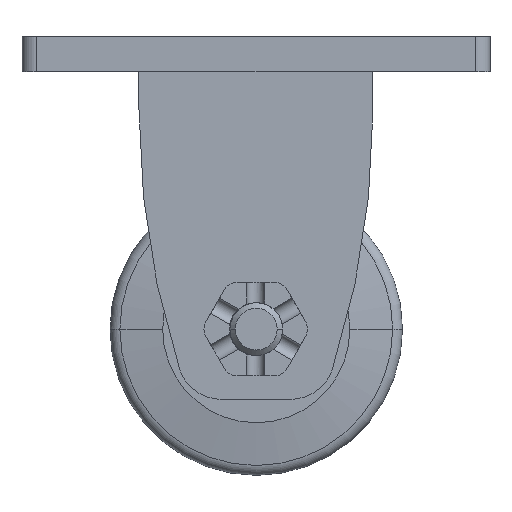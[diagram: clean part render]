
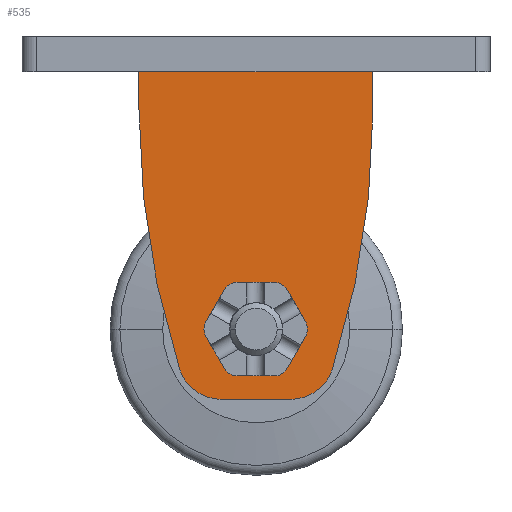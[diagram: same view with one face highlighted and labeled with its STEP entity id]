
A CAD part, front view. The second image highlights one B-rep face of the part: STEP entity #535.
In plain terms, the highlighted planar face has unit normal (0, -1, 0).
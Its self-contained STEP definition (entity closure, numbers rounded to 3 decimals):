
#535=ADVANCED_FACE('',(#1382,#1383),#865,.F.);
#865=PLANE('',#6846);
#1382=FACE_BOUND('',#1473,.T.);
#1383=FACE_BOUND('',#1474,.T.);
#1473=EDGE_LOOP('',(#3092,#3093,#3094,#3095,#3096,#3097,#3098,#3099));
#1474=EDGE_LOOP('',(#3100,#3101,#3102,#3103,#3104,#3105,#3106,#3107,#3108,
#3109,#3110,#3111));
#1858=LINE('',#9877,#2339);
#1859=LINE('',#9883,#2340);
#1860=LINE('',#9885,#2341);
#1861=LINE('',#9887,#2342);
#1862=LINE('',#9890,#2343);
#1863=LINE('',#9895,#2344);
#1864=LINE('',#9899,#2345);
#1865=LINE('',#9903,#2346);
#1866=LINE('',#9907,#2347);
#1867=LINE('',#9911,#2348);
#2339=VECTOR('',#7638,1.);
#2340=VECTOR('',#7643,1.);
#2341=VECTOR('',#7644,1.);
#2342=VECTOR('',#7645,1.);
#2343=VECTOR('',#7648,1.);
#2344=VECTOR('',#7651,1.);
#2345=VECTOR('',#7654,1.);
#2346=VECTOR('',#7657,1.);
#2347=VECTOR('',#7660,1.);
#2348=VECTOR('',#7663,1.);
#3092=ORIENTED_EDGE('',*,*,#5686,.F.);
#3093=ORIENTED_EDGE('',*,*,#5687,.T.);
#3094=ORIENTED_EDGE('',*,*,#5688,.F.);
#3095=ORIENTED_EDGE('',*,*,#5689,.F.);
#3096=ORIENTED_EDGE('',*,*,#5690,.T.);
#3097=ORIENTED_EDGE('',*,*,#5691,.T.);
#3098=ORIENTED_EDGE('',*,*,#5692,.T.);
#3099=ORIENTED_EDGE('',*,*,#5693,.F.);
#3100=ORIENTED_EDGE('',*,*,#5694,.F.);
#3101=ORIENTED_EDGE('',*,*,#5695,.F.);
#3102=ORIENTED_EDGE('',*,*,#5696,.F.);
#3103=ORIENTED_EDGE('',*,*,#5697,.F.);
#3104=ORIENTED_EDGE('',*,*,#5698,.F.);
#3105=ORIENTED_EDGE('',*,*,#5699,.F.);
#3106=ORIENTED_EDGE('',*,*,#5700,.F.);
#3107=ORIENTED_EDGE('',*,*,#5701,.F.);
#3108=ORIENTED_EDGE('',*,*,#5702,.F.);
#3109=ORIENTED_EDGE('',*,*,#5703,.F.);
#3110=ORIENTED_EDGE('',*,*,#5704,.F.);
#3111=ORIENTED_EDGE('',*,*,#5705,.F.);
#4988=VERTEX_POINT('',#9875);
#4989=VERTEX_POINT('',#9876);
#4990=VERTEX_POINT('',#9878);
#4991=VERTEX_POINT('',#9880);
#4992=VERTEX_POINT('',#9882);
#4993=VERTEX_POINT('',#9884);
#4994=VERTEX_POINT('',#9886);
#4995=VERTEX_POINT('',#9888);
#4996=VERTEX_POINT('',#9891);
#4997=VERTEX_POINT('',#9892);
#4998=VERTEX_POINT('',#9894);
#4999=VERTEX_POINT('',#9896);
#5000=VERTEX_POINT('',#9898);
#5001=VERTEX_POINT('',#9900);
#5002=VERTEX_POINT('',#9902);
#5003=VERTEX_POINT('',#9904);
#5004=VERTEX_POINT('',#9906);
#5005=VERTEX_POINT('',#9908);
#5006=VERTEX_POINT('',#9910);
#5007=VERTEX_POINT('',#9912);
#5686=EDGE_CURVE('',#4988,#4989,#6535,.T.);
#5687=EDGE_CURVE('',#4988,#4990,#1858,.T.);
#5688=EDGE_CURVE('',#4991,#4990,#6536,.T.);
#5689=EDGE_CURVE('',#4992,#4991,#6537,.T.);
#5690=EDGE_CURVE('',#4992,#4993,#1859,.T.);
#5691=EDGE_CURVE('',#4993,#4994,#1860,.T.);
#5692=EDGE_CURVE('',#4994,#4995,#1861,.T.);
#5693=EDGE_CURVE('',#4989,#4995,#6538,.T.);
#5694=EDGE_CURVE('',#4996,#4997,#1862,.T.);
#5695=EDGE_CURVE('',#4998,#4996,#6539,.T.);
#5696=EDGE_CURVE('',#4999,#4998,#1863,.T.);
#5697=EDGE_CURVE('',#5000,#4999,#6540,.T.);
#5698=EDGE_CURVE('',#5001,#5000,#1864,.T.);
#5699=EDGE_CURVE('',#5002,#5001,#6541,.T.);
#5700=EDGE_CURVE('',#5003,#5002,#1865,.T.);
#5701=EDGE_CURVE('',#5004,#5003,#6542,.T.);
#5702=EDGE_CURVE('',#5005,#5004,#1866,.T.);
#5703=EDGE_CURVE('',#5006,#5005,#6543,.T.);
#5704=EDGE_CURVE('',#5007,#5006,#1867,.T.);
#5705=EDGE_CURVE('',#4997,#5007,#6544,.T.);
#6535=CIRCLE('',#6836,15.);
#6536=CIRCLE('',#6837,15.);
#6537=CIRCLE('',#6838,290.);
#6538=CIRCLE('',#6839,290.);
#6539=CIRCLE('',#6840,5.);
#6540=CIRCLE('',#6841,5.);
#6541=CIRCLE('',#6842,5.);
#6542=CIRCLE('',#6843,5.);
#6543=CIRCLE('',#6844,5.);
#6544=CIRCLE('',#6845,5.);
#6836=AXIS2_PLACEMENT_3D('',#9874,#7636,#7637);
#6837=AXIS2_PLACEMENT_3D('',#9879,#7639,#7640);
#6838=AXIS2_PLACEMENT_3D('',#9881,#7641,#7642);
#6839=AXIS2_PLACEMENT_3D('',#9889,#7646,#7647);
#6840=AXIS2_PLACEMENT_3D('',#9893,#7649,#7650);
#6841=AXIS2_PLACEMENT_3D('',#9897,#7652,#7653);
#6842=AXIS2_PLACEMENT_3D('',#9901,#7655,#7656);
#6843=AXIS2_PLACEMENT_3D('',#9905,#7658,#7659);
#6844=AXIS2_PLACEMENT_3D('',#9909,#7661,#7662);
#6845=AXIS2_PLACEMENT_3D('',#9913,#7664,#7665);
#6846=AXIS2_PLACEMENT_3D('',#9914,#7666,#7667);
#7636=DIRECTION('',(0.,1.,0.));
#7637=DIRECTION('',(0.,0.,-1.));
#7638=DIRECTION('',(1.,0.,0.));
#7639=DIRECTION('',(0.,1.,0.));
#7640=DIRECTION('',(0.952,0.,-0.305));
#7641=DIRECTION('',(0.,1.,0.));
#7642=DIRECTION('',(1.,0.,0.));
#7643=DIRECTION('',(0.,0.,1.));
#7644=DIRECTION('',(-1.,0.,0.));
#7645=DIRECTION('',(0.,0.,-1.));
#7646=DIRECTION('',(0.,1.,0.));
#7647=DIRECTION('',(-0.952,0.,-0.305));
#7648=DIRECTION('',(-0.5,0.,0.866));
#7649=DIRECTION('',(0.,-1.,0.));
#7650=DIRECTION('',(0.866,0.,-0.5));
#7651=DIRECTION('',(0.5,0.,0.866));
#7652=DIRECTION('',(0.,-1.,0.));
#7653=DIRECTION('',(0.,0.,-1.));
#7654=DIRECTION('',(1.,0.,0.));
#7655=DIRECTION('',(0.,-1.,0.));
#7656=DIRECTION('',(-0.866,0.,-0.5));
#7657=DIRECTION('',(0.5,0.,-0.866));
#7658=DIRECTION('',(0.,-1.,0.));
#7659=DIRECTION('',(-0.866,0.,0.5));
#7660=DIRECTION('',(-0.5,0.,-0.866));
#7661=DIRECTION('',(0.,-1.,0.));
#7662=DIRECTION('',(0.,0.,1.));
#7663=DIRECTION('',(-1.,0.,0.));
#7664=DIRECTION('',(0.,-1.,0.));
#7665=DIRECTION('',(0.866,0.,0.5));
#7666=DIRECTION('',(0.,1.,0.));
#7667=DIRECTION('',(-1.,0.,0.));
#9874=CARTESIAN_POINT('',(-11.875,-51.5,-34.));
#9875=CARTESIAN_POINT('',(-11.875,-51.5,-49.));
#9876=CARTESIAN_POINT('',(-26.159,-51.5,-38.579));
#9877=CARTESIAN_POINT('',(-11.875,-51.5,-49.));
#9878=CARTESIAN_POINT('',(11.875,-51.5,-49.));
#9879=CARTESIAN_POINT('',(11.875,-51.5,-34.));
#9880=CARTESIAN_POINT('',(26.159,-51.5,-38.579));
#9881=CARTESIAN_POINT('',(-250.,-51.5,49.943));
#9882=CARTESIAN_POINT('',(40.,-51.5,49.943));
#9883=CARTESIAN_POINT('',(40.,-51.5,49.943));
#9884=CARTESIAN_POINT('',(40.,-51.5,63.));
#9885=CARTESIAN_POINT('',(40.,-51.5,63.));
#9886=CARTESIAN_POINT('',(-40.,-51.5,63.));
#9887=CARTESIAN_POINT('',(-40.,-51.5,63.));
#9888=CARTESIAN_POINT('',(-40.,-51.5,49.943));
#9889=CARTESIAN_POINT('',(250.,-51.5,49.943));
#9890=CARTESIAN_POINT('',(16.942,-51.5,-22.5));
#9891=CARTESIAN_POINT('',(16.942,-51.5,-22.5));
#9892=CARTESIAN_POINT('',(10.591,-51.5,-11.5));
#9893=CARTESIAN_POINT('',(12.612,-51.5,-25.));
#9894=CARTESIAN_POINT('',(16.942,-51.5,-27.5));
#9895=CARTESIAN_POINT('',(10.591,-51.5,-38.5));
#9896=CARTESIAN_POINT('',(10.591,-51.5,-38.5));
#9897=CARTESIAN_POINT('',(6.261,-51.5,-36.));
#9898=CARTESIAN_POINT('',(6.261,-51.5,-41.));
#9899=CARTESIAN_POINT('',(-6.441,-51.5,-41.));
#9900=CARTESIAN_POINT('',(-6.441,-51.5,-41.));
#9901=CARTESIAN_POINT('',(-6.441,-51.5,-36.));
#9902=CARTESIAN_POINT('',(-10.771,-51.5,-38.5));
#9903=CARTESIAN_POINT('',(-17.122,-51.5,-27.5));
#9904=CARTESIAN_POINT('',(-17.122,-51.5,-27.5));
#9905=CARTESIAN_POINT('',(-12.792,-51.5,-25.));
#9906=CARTESIAN_POINT('',(-17.122,-51.5,-22.5));
#9907=CARTESIAN_POINT('',(-10.771,-51.5,-11.5));
#9908=CARTESIAN_POINT('',(-10.771,-51.5,-11.5));
#9909=CARTESIAN_POINT('',(-6.441,-51.5,-14.));
#9910=CARTESIAN_POINT('',(-6.441,-51.5,-9.));
#9911=CARTESIAN_POINT('',(6.261,-51.5,-9.));
#9912=CARTESIAN_POINT('',(6.261,-51.5,-9.));
#9913=CARTESIAN_POINT('',(6.261,-51.5,-14.));
#9914=CARTESIAN_POINT('',(0.,-51.5,75.));
